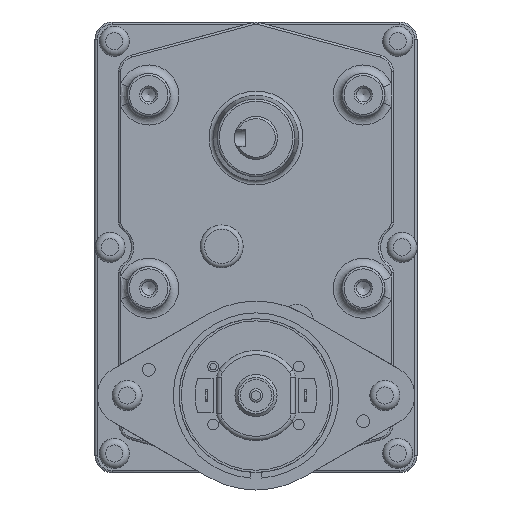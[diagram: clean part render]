
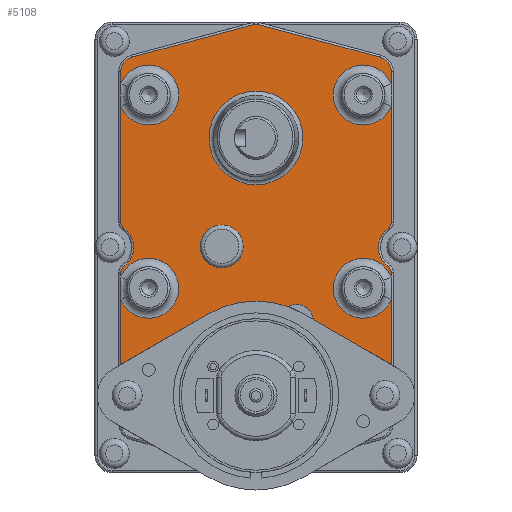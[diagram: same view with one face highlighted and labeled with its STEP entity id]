
A CAD part, front view. The second image highlights one B-rep face of the part: STEP entity #5108.
In plain terms, the highlighted planar face has unit normal (0, -1, 0).
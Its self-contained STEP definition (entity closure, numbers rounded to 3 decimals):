
#284=FACE_BOUND('',#808,.T.);
#285=FACE_BOUND('',#809,.T.);
#345=PLANE('',#5545);
#477=FACE_OUTER_BOUND('',#807,.T.);
#807=EDGE_LOOP('',(#3591,#3592,#3593,#3594,#3595,#3596,#3597,#3598,#3599,
#3600,#3601,#3602,#3603,#3604,#3605,#3606,#3607,#3608,#3609,#3610,#3611,
#3612,#3613,#3614,#3615,#3616,#3617));
#808=EDGE_LOOP('',(#3618));
#809=EDGE_LOOP('',(#3619));
#1193=LINE('',#8166,#1537);
#1194=LINE('',#8174,#1538);
#1195=LINE('',#8178,#1539);
#1196=LINE('',#8182,#1540);
#1197=LINE('',#8186,#1541);
#1198=LINE('',#8190,#1542);
#1199=LINE('',#8194,#1543);
#1200=LINE('',#8202,#1544);
#1201=LINE('',#8206,#1545);
#1202=LINE('',#8208,#1546);
#1203=LINE('',#8214,#1547);
#1204=LINE('',#8215,#1548);
#1537=VECTOR('',#6328,10.);
#1538=VECTOR('',#6335,10.);
#1539=VECTOR('',#6338,10.);
#1540=VECTOR('',#6341,10.);
#1541=VECTOR('',#6344,10.);
#1542=VECTOR('',#6347,10.);
#1543=VECTOR('',#6350,10.);
#1544=VECTOR('',#6357,10.);
#1545=VECTOR('',#6360,10.);
#1546=VECTOR('',#6361,10.);
#1547=VECTOR('',#6366,10.);
#1548=VECTOR('',#6367,10.);
#1880=CIRCLE('',#5541,10.909);
#1883=CIRCLE('',#5546,7.);
#1884=CIRCLE('',#5547,1.5);
#1885=CIRCLE('',#5548,5.5);
#1886=CIRCLE('',#5549,1.5);
#1887=CIRCLE('',#5550,7.);
#1888=CIRCLE('',#5551,3.5);
#1889=CIRCLE('',#5552,1.5);
#1890=CIRCLE('',#5553,3.5);
#1891=CIRCLE('',#5554,7.);
#1892=CIRCLE('',#5555,1.5);
#1893=CIRCLE('',#5556,5.5);
#1894=CIRCLE('',#5557,1.5);
#1895=CIRCLE('',#5558,7.);
#1896=CIRCLE('',#5559,22.);
#1897=CIRCLE('',#5560,4.);
#1898=CIRCLE('',#5561,5.);
#2286=VERTEX_POINT('',#8152);
#2289=VERTEX_POINT('',#8162);
#2290=VERTEX_POINT('',#8163);
#2291=VERTEX_POINT('',#8165);
#2292=VERTEX_POINT('',#8167);
#2293=VERTEX_POINT('',#8169);
#2294=VERTEX_POINT('',#8171);
#2295=VERTEX_POINT('',#8173);
#2296=VERTEX_POINT('',#8175);
#2297=VERTEX_POINT('',#8177);
#2298=VERTEX_POINT('',#8179);
#2299=VERTEX_POINT('',#8181);
#2300=VERTEX_POINT('',#8183);
#2301=VERTEX_POINT('',#8185);
#2302=VERTEX_POINT('',#8187);
#2303=VERTEX_POINT('',#8189);
#2304=VERTEX_POINT('',#8191);
#2305=VERTEX_POINT('',#8193);
#2306=VERTEX_POINT('',#8195);
#2307=VERTEX_POINT('',#8197);
#2308=VERTEX_POINT('',#8199);
#2309=VERTEX_POINT('',#8201);
#2310=VERTEX_POINT('',#8203);
#2311=VERTEX_POINT('',#8205);
#2312=VERTEX_POINT('',#8207);
#2313=VERTEX_POINT('',#8209);
#2314=VERTEX_POINT('',#8211);
#2315=VERTEX_POINT('',#8213);
#2316=VERTEX_POINT('',#8216);
#2792=EDGE_CURVE('',#2286,#2286,#1880,.T.);
#2796=EDGE_CURVE('',#2289,#2290,#1883,.T.);
#2797=EDGE_CURVE('',#2291,#2289,#1193,.T.);
#2798=EDGE_CURVE('',#2292,#2291,#1884,.T.);
#2799=EDGE_CURVE('',#2293,#2292,#1885,.T.);
#2800=EDGE_CURVE('',#2294,#2293,#1886,.T.);
#2801=EDGE_CURVE('',#2295,#2294,#1194,.T.);
#2802=EDGE_CURVE('',#2296,#2295,#1887,.T.);
#2803=EDGE_CURVE('',#2297,#2296,#1195,.T.);
#2804=EDGE_CURVE('',#2298,#2297,#1888,.T.);
#2805=EDGE_CURVE('',#2299,#2298,#1196,.T.);
#2806=EDGE_CURVE('',#2300,#2299,#1889,.T.);
#2807=EDGE_CURVE('',#2301,#2300,#1197,.T.);
#2808=EDGE_CURVE('',#2302,#2301,#1890,.T.);
#2809=EDGE_CURVE('',#2303,#2302,#1198,.T.);
#2810=EDGE_CURVE('',#2304,#2303,#1891,.T.);
#2811=EDGE_CURVE('',#2305,#2304,#1199,.T.);
#2812=EDGE_CURVE('',#2306,#2305,#1892,.T.);
#2813=EDGE_CURVE('',#2307,#2306,#1893,.T.);
#2814=EDGE_CURVE('',#2308,#2307,#1894,.T.);
#2815=EDGE_CURVE('',#2309,#2308,#1200,.T.);
#2816=EDGE_CURVE('',#2310,#2309,#1895,.T.);
#2817=EDGE_CURVE('',#2311,#2310,#1201,.T.);
#2818=EDGE_CURVE('',#2311,#2312,#1202,.T.);
#2819=EDGE_CURVE('',#2312,#2313,#1896,.T.);
#2820=EDGE_CURVE('',#2313,#2314,#1897,.T.);
#2821=EDGE_CURVE('',#2314,#2315,#1203,.T.);
#2822=EDGE_CURVE('',#2290,#2315,#1204,.T.);
#2823=EDGE_CURVE('',#2316,#2316,#1898,.T.);
#3591=ORIENTED_EDGE('',*,*,#2796,.F.);
#3592=ORIENTED_EDGE('',*,*,#2797,.F.);
#3593=ORIENTED_EDGE('',*,*,#2798,.F.);
#3594=ORIENTED_EDGE('',*,*,#2799,.F.);
#3595=ORIENTED_EDGE('',*,*,#2800,.F.);
#3596=ORIENTED_EDGE('',*,*,#2801,.F.);
#3597=ORIENTED_EDGE('',*,*,#2802,.F.);
#3598=ORIENTED_EDGE('',*,*,#2803,.F.);
#3599=ORIENTED_EDGE('',*,*,#2804,.F.);
#3600=ORIENTED_EDGE('',*,*,#2805,.F.);
#3601=ORIENTED_EDGE('',*,*,#2806,.F.);
#3602=ORIENTED_EDGE('',*,*,#2807,.F.);
#3603=ORIENTED_EDGE('',*,*,#2808,.F.);
#3604=ORIENTED_EDGE('',*,*,#2809,.F.);
#3605=ORIENTED_EDGE('',*,*,#2810,.F.);
#3606=ORIENTED_EDGE('',*,*,#2811,.F.);
#3607=ORIENTED_EDGE('',*,*,#2812,.F.);
#3608=ORIENTED_EDGE('',*,*,#2813,.F.);
#3609=ORIENTED_EDGE('',*,*,#2814,.F.);
#3610=ORIENTED_EDGE('',*,*,#2815,.F.);
#3611=ORIENTED_EDGE('',*,*,#2816,.F.);
#3612=ORIENTED_EDGE('',*,*,#2817,.F.);
#3613=ORIENTED_EDGE('',*,*,#2818,.T.);
#3614=ORIENTED_EDGE('',*,*,#2819,.T.);
#3615=ORIENTED_EDGE('',*,*,#2820,.T.);
#3616=ORIENTED_EDGE('',*,*,#2821,.T.);
#3617=ORIENTED_EDGE('',*,*,#2822,.F.);
#3618=ORIENTED_EDGE('',*,*,#2823,.T.);
#3619=ORIENTED_EDGE('',*,*,#2792,.F.);
#5108=ADVANCED_FACE('',(#477,#284,#285),#345,.F.);
#5541=AXIS2_PLACEMENT_3D('',#8154,#6315,#6316);
#5545=AXIS2_PLACEMENT_3D('',#8161,#6324,#6325);
#5546=AXIS2_PLACEMENT_3D('',#8164,#6326,#6327);
#5547=AXIS2_PLACEMENT_3D('',#8168,#6329,#6330);
#5548=AXIS2_PLACEMENT_3D('',#8170,#6331,#6332);
#5549=AXIS2_PLACEMENT_3D('',#8172,#6333,#6334);
#5550=AXIS2_PLACEMENT_3D('',#8176,#6336,#6337);
#5551=AXIS2_PLACEMENT_3D('',#8180,#6339,#6340);
#5552=AXIS2_PLACEMENT_3D('',#8184,#6342,#6343);
#5553=AXIS2_PLACEMENT_3D('',#8188,#6345,#6346);
#5554=AXIS2_PLACEMENT_3D('',#8192,#6348,#6349);
#5555=AXIS2_PLACEMENT_3D('',#8196,#6351,#6352);
#5556=AXIS2_PLACEMENT_3D('',#8198,#6353,#6354);
#5557=AXIS2_PLACEMENT_3D('',#8200,#6355,#6356);
#5558=AXIS2_PLACEMENT_3D('',#8204,#6358,#6359);
#5559=AXIS2_PLACEMENT_3D('',#8210,#6362,#6363);
#5560=AXIS2_PLACEMENT_3D('',#8212,#6364,#6365);
#5561=AXIS2_PLACEMENT_3D('',#8217,#6368,#6369);
#6315=DIRECTION('center_axis',(0.,-1.,0.));
#6316=DIRECTION('ref_axis',(1.,0.,0.));
#6324=DIRECTION('center_axis',(0.,1.,0.));
#6325=DIRECTION('ref_axis',(0.,0.,1.));
#6326=DIRECTION('center_axis',(0.,-1.,0.));
#6327=DIRECTION('ref_axis',(-1.,0.,0.));
#6328=DIRECTION('',(0.,0.,-1.));
#6329=DIRECTION('center_axis',(0.,1.,0.));
#6330=DIRECTION('ref_axis',(0.886,0.,0.463));
#6331=DIRECTION('center_axis',(0.,-1.,0.));
#6332=DIRECTION('ref_axis',(-1.,0.,0.));
#6333=DIRECTION('center_axis',(0.,1.,0.));
#6334=DIRECTION('ref_axis',(0.886,0.,-0.463));
#6335=DIRECTION('',(0.,0.,-1.));
#6336=DIRECTION('center_axis',(0.,-1.,0.));
#6337=DIRECTION('ref_axis',(-1.,0.,0.));
#6338=DIRECTION('',(0.,0.,-1.));
#6339=DIRECTION('center_axis',(0.,1.,0.));
#6340=DIRECTION('ref_axis',(0.793,0.,0.609));
#6341=DIRECTION('',(0.966,0.,-0.259));
#6342=DIRECTION('center_axis',(0.,1.,0.));
#6343=DIRECTION('ref_axis',(0.,0.,1.));
#6344=DIRECTION('',(0.966,0.,0.259));
#6345=DIRECTION('center_axis',(0.,1.,0.));
#6346=DIRECTION('ref_axis',(-0.793,0.,0.609));
#6347=DIRECTION('',(0.,0.,1.));
#6348=DIRECTION('center_axis',(0.,-1.,0.));
#6349=DIRECTION('ref_axis',(-1.,0.,0.));
#6350=DIRECTION('',(0.,0.,1.));
#6351=DIRECTION('center_axis',(0.,1.,0.));
#6352=DIRECTION('ref_axis',(-0.886,0.,-0.463));
#6353=DIRECTION('center_axis',(0.,-1.,0.));
#6354=DIRECTION('ref_axis',(1.,0.,0.));
#6355=DIRECTION('center_axis',(0.,1.,0.));
#6356=DIRECTION('ref_axis',(-0.886,0.,0.463));
#6357=DIRECTION('',(0.,0.,1.));
#6358=DIRECTION('center_axis',(0.,-1.,0.));
#6359=DIRECTION('ref_axis',(-1.,0.,0.));
#6360=DIRECTION('',(0.,0.,1.));
#6361=DIRECTION('',(0.866,0.,0.5));
#6362=DIRECTION('center_axis',(0.,1.,0.));
#6363=DIRECTION('ref_axis',(1.,0.,0.));
#6364=DIRECTION('center_axis',(0.,1.,0.));
#6365=DIRECTION('ref_axis',(-1.,0.,0.));
#6366=DIRECTION('',(0.866,0.,-0.5));
#6367=DIRECTION('',(0.,0.,-1.));
#6368=DIRECTION('center_axis',(0.,1.,0.));
#6369=DIRECTION('ref_axis',(-1.,0.,0.));
#8152=CARTESIAN_POINT('',(0.,-35.,-10.909));
#8154=CARTESIAN_POINT('Origin',(0.,-35.,0.));
#8161=CARTESIAN_POINT('Origin',(0.,-35.,-25.5));
#8162=CARTESIAN_POINT('',(31.5,-35.,-32.402));
#8163=CARTESIAN_POINT('',(31.5,-35.,-37.598));
#8164=CARTESIAN_POINT('Origin',(25.,-35.,-35.));
#8165=CARTESIAN_POINT('',(31.5,-35.,-31.245));
#8166=CARTESIAN_POINT('',(31.5,-35.,-45.963));
#8167=CARTESIAN_POINT('',(30.857,-35.,-30.014));
#8168=CARTESIAN_POINT('Origin',(30.,-35.,-31.245));
#8169=CARTESIAN_POINT('',(30.857,-35.,-20.986));
#8170=CARTESIAN_POINT('Origin',(34.,-35.,-25.5));
#8171=CARTESIAN_POINT('',(31.5,-35.,-19.755));
#8172=CARTESIAN_POINT('Origin',(30.,-35.,-19.755));
#8173=CARTESIAN_POINT('',(31.5,-35.,7.402));
#8174=CARTESIAN_POINT('',(31.5,-35.,-45.963));
#8175=CARTESIAN_POINT('',(31.5,-35.,12.598));
#8176=CARTESIAN_POINT('Origin',(25.,-35.,10.));
#8177=CARTESIAN_POINT('',(31.5,-35.,15.427));
#8178=CARTESIAN_POINT('',(31.5,-35.,-45.963));
#8179=CARTESIAN_POINT('',(28.906,-35.,18.808));
#8180=CARTESIAN_POINT('Origin',(28.,-35.,15.427));
#8181=CARTESIAN_POINT('',(0.388,-35.,26.449));
#8182=CARTESIAN_POINT('',(20.96,-35.,20.937));
#8183=CARTESIAN_POINT('',(-0.388,-35.,26.449));
#8184=CARTESIAN_POINT('Origin',(0.,-35.,25.));
#8185=CARTESIAN_POINT('',(-28.906,-35.,18.808));
#8186=CARTESIAN_POINT('',(-6.701,-35.,24.757));
#8187=CARTESIAN_POINT('',(-31.5,-35.,15.427));
#8188=CARTESIAN_POINT('Origin',(-28.,-35.,15.427));
#8189=CARTESIAN_POINT('',(-31.5,-35.,12.598));
#8190=CARTESIAN_POINT('',(-31.5,-35.,-5.037));
#8191=CARTESIAN_POINT('',(-31.5,-35.,7.402));
#8192=CARTESIAN_POINT('Origin',(-25.,-35.,10.));
#8193=CARTESIAN_POINT('',(-31.5,-35.,-19.755));
#8194=CARTESIAN_POINT('',(-31.5,-35.,-5.037));
#8195=CARTESIAN_POINT('',(-30.857,-35.,-20.986));
#8196=CARTESIAN_POINT('Origin',(-30.,-35.,-19.755));
#8197=CARTESIAN_POINT('',(-30.857,-35.,-30.014));
#8198=CARTESIAN_POINT('Origin',(-34.,-35.,-25.5));
#8199=CARTESIAN_POINT('',(-31.5,-35.,-31.245));
#8200=CARTESIAN_POINT('Origin',(-30.,-35.,-31.245));
#8201=CARTESIAN_POINT('',(-31.5,-35.,-32.402));
#8202=CARTESIAN_POINT('',(-31.5,-35.,-5.037));
#8203=CARTESIAN_POINT('',(-31.5,-35.,-37.598));
#8204=CARTESIAN_POINT('Origin',(-25.,-35.,-35.));
#8205=CARTESIAN_POINT('',(-31.5,-35.,-52.783));
#8206=CARTESIAN_POINT('',(-31.5,-35.,-5.037));
#8207=CARTESIAN_POINT('',(-11.,-35.,-40.947));
#8208=CARTESIAN_POINT('',(-3.531,-35.,-36.635));
#8209=CARTESIAN_POINT('',(7.452,-35.,-39.301));
#8210=CARTESIAN_POINT('Origin',(0.,-35.,-60.));
#8211=CARTESIAN_POINT('',(13.372,-35.,-42.317));
#8212=CARTESIAN_POINT('Origin',(9.401,-35.,-42.794));
#8213=CARTESIAN_POINT('',(31.5,-35.,-52.783));
#8214=CARTESIAN_POINT('',(14.781,-35.,-43.13));
#8215=CARTESIAN_POINT('',(31.5,-35.,-45.963));
#8216=CARTESIAN_POINT('',(-3.,-35.,-25.264));
#8217=CARTESIAN_POINT('Origin',(-8.,-35.,-25.264));
